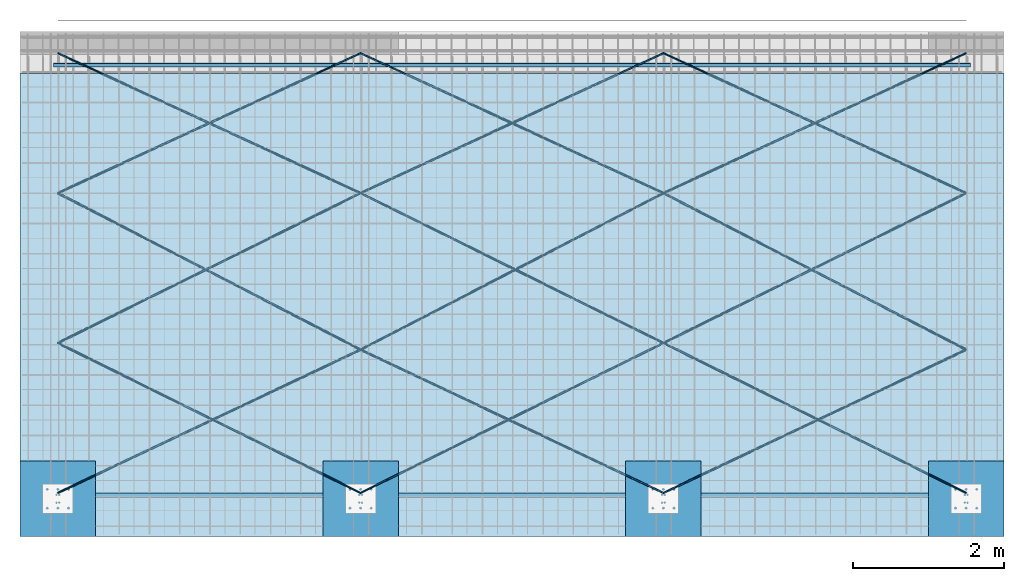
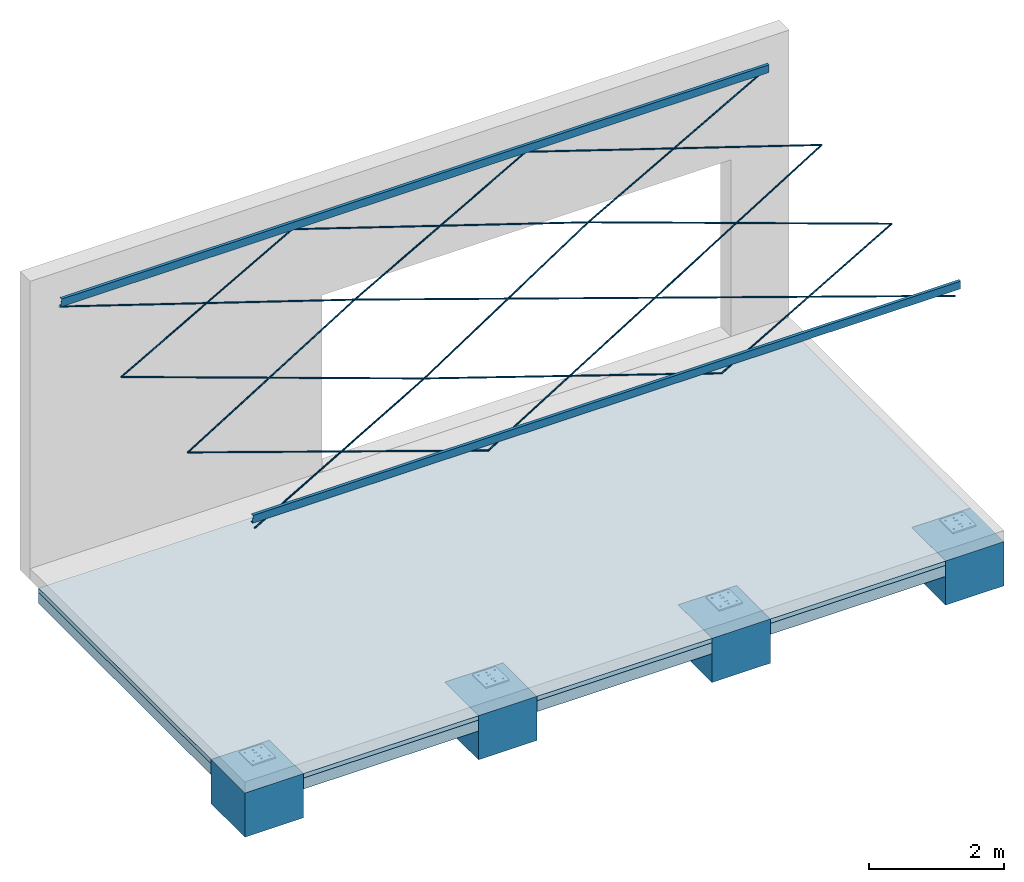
# One storey, part 1 of 8: 20 beams, 4 footings, 2 slabs.
"""IFC4X3_ADD2 building model written with IfcOpenShell, lengths in millimetres."""

import ifcopenshell
import ifcopenshell.guid

model = None  # the IFC model being written
_history = None  # IfcOwnerHistory: only IFC2X3 demands one
_inside = {}  # id of a spatial element -> (the spatial element, [elements in it])
_under = {}  # id of a project, library or spatial element -> (it, [spatial elements below it])
_declared = {}  # id of a project -> (the project, [libraries it declares])
_typed = {}  # id of a type object -> (the type object, [elements of that type])
_made_of = {}  # id of a material, layer set ... -> (it, [elements and type objects made of it])


def new_model(schema):
    """Start an empty IFC model of exactly this schema.

    Asked for "IFC4X3", IfcOpenShell would pick the latest addendum, in which some entities
    have other attributes; the version numbers below select the first issue.
    IFC2X3 requires an IfcOwnerHistory on every rooted entity: one is made here for all.
    """
    global model, _history
    if schema == "IFC4X3":
        model = ifcopenshell.file(schema_version=(4, 3, 0, 0))
    else:
        model = ifcopenshell.file(schema=schema)
    _inside.clear()
    _under.clear()
    _declared.clear()
    _typed.clear()
    _made_of.clear()
    _history = None
    if model.schema == "IFC2X3":
        org = make("IfcOrganization", Name="unknown")
        user = make(
            "IfcPersonAndOrganization",
            ThePerson=make("IfcPerson", FamilyName="unknown"),
            TheOrganization=org,
        )
        app = make(
            "IfcApplication",
            ApplicationDeveloper=org,
            Version="unknown",
            ApplicationFullName="unknown",
            ApplicationIdentifier="unknown",
        )
        _history = make(
            "IfcOwnerHistory",
            OwningUser=user,
            OwningApplication=app,
            ChangeAction="ADDED",
            CreationDate=0,
        )
    return model


def make(cls, **values):
    """One entity of the class cls with the attributes given. An attribute that is None is left unset."""
    return model.create_entity(
        cls, **{name: value for name, value in values.items() if value is not None}
    )


def entity(cls, *values):
    """Any entity or typed value of the class cls, its attributes in the order of the schema. None: left unset."""
    e = model.create_entity(cls)
    for i, value in enumerate(values):
        if value is not None:
            e[i] = value
    return e


def rooted(cls, **values):
    """An entity with a GlobalId (a new one), such as an element, a storey or a relation."""
    return make(cls, GlobalId=ifcopenshell.guid.new(), OwnerHistory=_history, **values)


def si_unit(unit_type, name, prefix=None):
    """IfcSIUnit, for example si_unit("LENGTHUNIT", "METRE", prefix="MILLI")."""
    return make("IfcSIUnit", UnitType=unit_type, Prefix=prefix, Name=name)


def converted_unit(unit_type, name, factor, base, dimensions=None, offset=None):
    """IfcConversionBasedUnit, such as the inch: factor (a typed value) times the base unit."""
    return make(
        "IfcConversionBasedUnit"
        if offset is None
        else "IfcConversionBasedUnitWithOffset",
        ConversionOffset=offset,
        Dimensions=None
        if dimensions is None
        else entity("IfcDimensionalExponents", *dimensions),
        UnitType=unit_type,
        Name=name,
        ConversionFactor=make(
            "IfcMeasureWithUnit", ValueComponent=factor, UnitComponent=base
        ),
    )


def derived_unit(unit_type, elements):
    """IfcDerivedUnit: a product of units, each with its exponent."""
    return make(
        "IfcDerivedUnit",
        Elements=[
            make("IfcDerivedUnitElement", Unit=unit, Exponent=power)
            for unit, power in elements
        ],
        UnitType=unit_type,
    )


def assignment(units):
    """IfcUnitAssignment: the units of a project."""
    return None if units is None else make("IfcUnitAssignment", Units=units)


def point(xyz):
    """IfcCartesianPoint."""
    return None if xyz is None else make("IfcCartesianPoint", Coordinates=xyz)


def direction(xyz):
    """IfcDirection."""
    return None if xyz is None else make("IfcDirection", DirectionRatios=xyz)


def frame(location, z_axis=None, x_axis=None):
    """IfcAxis2Placement3D, a coordinate frame: its origin and axes. An axis left out is left unset."""
    return make(
        "IfcAxis2Placement3D",
        Location=point(location),
        Axis=direction(z_axis),
        RefDirection=direction(x_axis),
    )


def frame_2d(location, x_axis=None):
    """IfcAxis2Placement2D, a coordinate frame in the plane: its origin and x axis."""
    return make(
        "IfcAxis2Placement2D", Location=point(location), RefDirection=direction(x_axis)
    )


def origin():
    """The frame at (0, 0, 0) with its axes left unset."""
    return frame((0.0, 0.0, 0.0))


def origin_2d_with_axis():
    """The frame at (0, 0) in the plane with the x axis (1, 0) written out."""
    return frame_2d((0.0, 0.0), x_axis=(1.0, 0.0))


def place(relative_to, where):
    """IfcLocalPlacement: puts the frame where relative to a parent placement (None: the world)."""
    return make(
        "IfcLocalPlacement", PlacementRelTo=relative_to, RelativePlacement=where
    )


def context(
    kind, dimensions, precision=None, world=None, true_north=None, identifier=None
):
    """IfcGeometricRepresentationContext, for example the 3D "Model" context."""
    return make(
        "IfcGeometricRepresentationContext",
        ContextIdentifier=identifier,
        ContextType=kind,
        CoordinateSpaceDimension=dimensions,
        Precision=precision,
        WorldCoordinateSystem=world,
        TrueNorth=true_north,
    )


def subcontext(parent, identifier, kind, view, scale=None):
    """IfcGeometricRepresentationSubContext, for example "Body" below "Model"."""
    return make(
        "IfcGeometricRepresentationSubContext",
        ContextIdentifier=identifier,
        ContextType=kind,
        ParentContext=parent,
        TargetScale=scale,
        TargetView=view,
    )


def project(units=None, contexts=None):
    """IfcProject with its units and contexts."""
    return rooted(
        "IfcProject",
        Name="project",
        RepresentationContexts=contexts,
        UnitsInContext=assignment(units),
    )


def spatial(cls, under=None, at=None, **own):
    """A site, building, storey or space (cls), placed at a placement, below another one or the project."""
    s = rooted(cls, ObjectPlacement=at, **own)
    if under is not None:
        _under.setdefault(under.id(), (under, []))[1].append(s)
    return s


def polyline(points):
    """IfcPolyline through the points."""
    return make("IfcPolyline", Points=[point(p) for p in points])


def profile(cls, at=None, kind="AREA", **sizes):
    """A parametric profile (cls). Its sizes go by their IFC names, for example OverallWidth=200.0."""
    return make(cls, ProfileType=kind, Position=at, **sizes)


def rectangle(**sizes):
    """IfcRectangleProfileDef."""
    return profile("IfcRectangleProfileDef", **sizes)


def circle(**sizes):
    """IfcCircleProfileDef."""
    return profile("IfcCircleProfileDef", **sizes)


def outline(outer, holes=None, kind="AREA"):
    """IfcArbitraryClosedProfileDef: a profile drawn as a closed curve; with holes, ...WithVoids."""
    if holes is None:
        return make("IfcArbitraryClosedProfileDef", ProfileType=kind, OuterCurve=outer)
    return make(
        "IfcArbitraryProfileDefWithVoids",
        ProfileType=kind,
        OuterCurve=outer,
        InnerCurves=holes,
    )


def extrude(swept, where, along, depth):
    """IfcExtrudedAreaSolid: the profile swept, set in the frame where, extruded along a direction by depth."""
    return make(
        "IfcExtrudedAreaSolid",
        SweptArea=swept,
        Position=where,
        ExtrudedDirection=direction(along),
        Depth=depth,
    )


def shape(context_of_items, identifier, shape_type, items):
    """IfcShapeRepresentation: the items that make up one representation, for example the "Body"."""
    return make(
        "IfcShapeRepresentation",
        ContextOfItems=context_of_items,
        RepresentationIdentifier=identifier,
        RepresentationType=shape_type,
        Items=items,
    )


def source(mapping_origin, context_of_items, identifier, shape_type, items):
    """IfcRepresentationMap: a shape defined once, which mapped items show again and again."""
    return make(
        "IfcRepresentationMap",
        MappingOrigin=mapping_origin,
        MappedRepresentation=shape(context_of_items, identifier, shape_type, items),
    )


def transform(
    local_origin,
    x_axis=None,
    y_axis=None,
    z_axis=None,
    scale=None,
    scale2=None,
    scale3=None,
    uniform=True,
):
    """IfcCartesianTransformationOperator3D, or its non-uniform kind. x_axis, y_axis, z_axis: its Axis1, 2, 3."""
    if uniform:
        return make(
            "IfcCartesianTransformationOperator3D",
            Axis1=direction(x_axis),
            Axis2=direction(y_axis),
            LocalOrigin=point(local_origin),
            Scale=scale,
            Axis3=direction(z_axis),
        )
    return make(
        "IfcCartesianTransformationOperator3DnonUniform",
        Axis1=direction(x_axis),
        Axis2=direction(y_axis),
        LocalOrigin=point(local_origin),
        Scale=scale,
        Axis3=direction(z_axis),
        Scale2=scale2,
        Scale3=scale3,
    )


def mapped(mapping_source, mapping_target):
    """IfcMappedItem: shows the shape of a source again, moved by a transform."""
    return make(
        "IfcMappedItem", MappingSource=mapping_source, MappingTarget=mapping_target
    )


def material(Name=None, Category=None):
    """IfcMaterial."""
    return make("IfcMaterial", Name=Name, Category=Category)


def layer(
    of_material, thickness, ventilated=None, Name=None, Category=None, Priority=None
):
    """IfcMaterialLayer: one layer of a wall or slab, of a material (None: an air gap)."""
    return make(
        "IfcMaterialLayer",
        Material=of_material,
        LayerThickness=thickness,
        IsVentilated=ventilated,
        Name=Name,
        Category=Category,
        Priority=Priority,
    )


def layer_set(layers, Name=None):
    """IfcMaterialLayerSet."""
    return make("IfcMaterialLayerSet", MaterialLayers=layers, LayerSetName=Name)


def layer_usage(for_layer_set, set_direction, sense, offset, extent=None):
    """IfcMaterialLayerSetUsage: how a layer set lies in its element."""
    return make(
        "IfcMaterialLayerSetUsage",
        ForLayerSet=for_layer_set,
        LayerSetDirection=set_direction,
        DirectionSense=sense,
        OffsetFromReferenceLine=offset,
        ReferenceExtent=extent,
    )


def material_profile(
    of_material, cross_section, Name=None, Category=None, Priority=None
):
    """IfcMaterialProfile: a cross section and its material."""
    return make(
        "IfcMaterialProfile",
        Name=Name,
        Material=of_material,
        Profile=cross_section,
        Priority=Priority,
        Category=Category,
    )


def profile_set(profiles, Name=None, composite=None):
    """IfcMaterialProfileSet."""
    return make(
        "IfcMaterialProfileSet",
        Name=Name,
        MaterialProfiles=profiles,
        CompositeProfile=composite,
    )


def made_of(thing, what):
    """Note that an element or type object is made of a material, layer set ...; save() writes the relation."""
    if what is not None:
        _made_of.setdefault(what.id(), (what, []))[1].append(thing)
    return thing


def type_object(cls, material=None, **own):
    """A type object (cls), such as IfcWallType, which elements share."""
    return made_of(rooted(cls, **own), material)


def type_shapes(of_type, sources):
    """Give a type object the sources (RepresentationMaps) that its elements show as mapped items."""
    of_type.RepresentationMaps = sources


def element(
    cls,
    number,
    at=None,
    inside=None,
    cuts=None,
    type_object=None,
    material=None,
    context=None,
    identifier="Body",
    shape_type=None,
    held_by="IfcProductDefinitionShape",
    body=None,
    shapes=None,
    **own,
):
    """One element of the class cls, such as IfcWall. Its Tag is "e" and its number.

    at: its placement. inside: the storey or other place that contains it. cuts: it is an
    opening in that element (IfcRelVoidsElement). A single representation is given by context,
    identifier, shape_type and body (its items); several are given by shapes. held_by: the class
    of the entity that holds the representations. save() writes the other relations.
    """
    e = rooted(cls, Tag="e%d" % number, ObjectPlacement=at, **own)
    if body is not None:
        shapes = [shape(context, identifier, shape_type, body)]
    if shapes is not None:
        e.Representation = make(held_by, Representations=shapes)
    if inside is not None:
        _inside.setdefault(inside.id(), (inside, []))[1].append(e)
    if cuts is not None:
        rooted(
            "IfcRelVoidsElement", RelatingBuildingElement=cuts, RelatedOpeningElement=e
        )
    if type_object is not None:
        _typed.setdefault(type_object.id(), (type_object, []))[1].append(e)
    return made_of(e, material)


def aggregate(whole, parts):
    """IfcRelAggregates: a whole, such as a stair, and the parts it consists of."""
    return rooted("IfcRelAggregates", RelatingObject=whole, RelatedObjects=parts)


def save(model, path):
    """Write the relations noted so far, then the file.

    IfcRelAggregates (storeys below a building ...), IfcRelContainedInSpatialStructure (elements
    in a storey), IfcRelDefinesByType, IfcRelAssociatesMaterial and IfcRelDeclares: one each for
    every whole, place, type object, material and project.
    """
    for whole, parts in _under.values():
        aggregate(whole, parts)
    for where, things in _inside.values():
        rooted(
            "IfcRelContainedInSpatialStructure",
            RelatedElements=things,
            RelatingStructure=where,
        )
    for kind, things in _typed.values():
        rooted("IfcRelDefinesByType", RelatedObjects=things, RelatingType=kind)
    for what, things in _made_of.values():
        rooted("IfcRelAssociatesMaterial", RelatedObjects=things, RelatingMaterial=what)
    for by, libraries in _declared.values():
        rooted("IfcRelDeclares", RelatingContext=by, RelatedDefinitions=libraries)
    model.write(path)


model = new_model("IFC4X3_ADD2")

# Units and contexts
model_context = context("Model", 3, precision=0.01, world=origin(), true_north=direction((6.123233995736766e-17, 1.0)))
plan_context = context("Plan", 3, precision=0.01, world=origin(), true_north=direction((6.123233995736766e-17, 1.0)))
body_context = subcontext(model_context, "Body", "Model", "MODEL_VIEW")
ifc_project = project(units=[si_unit("LENGTHUNIT", "METRE", prefix="MILLI"), converted_unit("PLANEANGLEUNIT", "DEGREE", entity("IfcPlaneAngleMeasure", 0.017453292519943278), si_unit("PLANEANGLEUNIT", "RADIAN"), dimensions=[0, 0, 0, 0, 0, 0, 0]), si_unit("AREAUNIT", "SQUARE_METRE"), si_unit("VOLUMEUNIT", "CUBIC_METRE"), derived_unit("THERMALTRANSMITTANCEUNIT", [(si_unit("MASSUNIT", "GRAM", prefix="KILO"), 1), (si_unit("THERMODYNAMICTEMPERATUREUNIT", "KELVIN"), -1), (si_unit("TIMEUNIT", "SECOND"), -3)]), derived_unit("USERDEFINED", [(si_unit("MASSUNIT", "GRAM", prefix="KILO"), 1), (si_unit("THERMODYNAMICTEMPERATUREUNIT", "KELVIN"), -1), (si_unit("TIMEUNIT", "SECOND"), -2)]), derived_unit("THERMALRESISTANCEUNIT", [(si_unit("MASSUNIT", "GRAM", prefix="KILO"), -1), (si_unit("TIMEUNIT", "SECOND"), 3), (si_unit("THERMODYNAMICTEMPERATUREUNIT", "KELVIN"), 1)]), si_unit("MASSUNIT", "GRAM", prefix="KILO"), derived_unit("MOMENTOFINERTIAUNIT", [(si_unit("LENGTHUNIT", "METRE"), 4)]), derived_unit("LINEARFORCEUNIT", [(si_unit("MASSUNIT", "GRAM", prefix="KILO"), 1), (si_unit("TIMEUNIT", "SECOND"), -2)]), derived_unit("WARPINGCONSTANTUNIT", [(si_unit("LENGTHUNIT", "METRE"), 6)]), si_unit("PRESSUREUNIT", "PASCAL"), derived_unit("MASSDENSITYUNIT", [(si_unit("MASSUNIT", "GRAM", prefix="KILO"), 1), (si_unit("LENGTHUNIT", "METRE"), -3)]), derived_unit("MODULUSOFELASTICITYUNIT", [(si_unit("MASSUNIT", "GRAM", prefix="KILO"), 1), (si_unit("TIMEUNIT", "SECOND"), -2), (si_unit("LENGTHUNIT", "METRE"), -1)]), derived_unit("THERMALEXPANSIONCOEFFICIENTUNIT", [(si_unit("THERMODYNAMICTEMPERATUREUNIT", "KELVIN"), -1)]), derived_unit("VAPORPERMEABILITYUNIT", [(si_unit("LENGTHUNIT", "METRE"), -1), (si_unit("TIMEUNIT", "SECOND"), 1)]), derived_unit("USERDEFINED", [(si_unit("MASSUNIT", "GRAM", prefix="KILO"), 1), (si_unit("TIMEUNIT", "SECOND"), -3), (si_unit("LENGTHUNIT", "METRE"), 3), (si_unit("ELECTRICCURRENTUNIT", "AMPERE"), -2)]), derived_unit("SPECIFICHEATCAPACITYUNIT", [(si_unit("THERMODYNAMICTEMPERATUREUNIT", "KELVIN"), -1), (si_unit("TIMEUNIT", "SECOND"), -2), (si_unit("LENGTHUNIT", "METRE"), 2)]), derived_unit("THERMALCONDUCTANCEUNIT", [(si_unit("MASSUNIT", "GRAM", prefix="KILO"), 1), (si_unit("THERMODYNAMICTEMPERATUREUNIT", "KELVIN"), -1), (si_unit("TIMEUNIT", "SECOND"), -3), (si_unit("LENGTHUNIT", "METRE"), 1)])], contexts=[model_context, plan_context])

# Site, building, storey
site_placement = place(None, origin())
site = spatial("IfcSite", under=ifc_project, at=site_placement, Name="Default", CompositionType="ELEMENT")
building_placement = place(site_placement, origin())
building = spatial("IfcBuilding", under=site, at=building_placement, Name="Complex structure", CompositionType="ELEMENT")
storey_placement = place(building_placement, frame((0.0, 0.0, -400.0)))
storey = spatial("IfcBuildingStorey", under=building, at=storey_placement, Name="Level -02", CompositionType="ELEMENT", Elevation=-400.0)

# Footings
ifc_material_1 = material(Name="Concrete - Cast-in-Place Concrete", Category="Concrete")
footing_type = type_object("IfcFootingType", Name="Footing-Rectangular:1000 x 1000 x 800mm", PredefinedType="NOTDEFINED", material=ifc_material_1)
shared_shape_1 = source(origin(), body_context, "Body", "SweptSolid", [
    extrude(rectangle(XDim=999.9999999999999, YDim=999.9999999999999, at=origin_2d_with_axis()), frame((0.0, 0.0, -800.0), z_axis=(0.0, 0.0, 1.0), x_axis=(-1.0, 0.0, 0.0)), (0.0, 0.0, 1.0), 800.0),
])
type_shapes(footing_type, [shared_shape_1])
for number, where, name in (
    (1, (-13145.221550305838, -1282.8667039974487, 0.0), "Footing-Rectangular:1000 x 1000 x 800mm"),
    (2, (-9145.221550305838, -1282.8667039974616, 0.0), "Footing-Rectangular:1000 x 1000 x 800mm"),
    (3, (-5145.221550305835, -1282.8667039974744, 0.0), "Footing-Rectangular:1000 x 1000 x 800mm"),
    (4, (-1145.2215503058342, -1282.8667039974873, 0.0), "Footing-Rectangular:1000 x 1000 x 800mm"),
):
    element("IfcFooting", number, at=place(storey_placement, frame(where)), inside=storey, type_object=footing_type, material=ifc_material_1, Name=name, ObjectType="Footing-Rectangular:1000 x 1000 x 800mm", PredefinedType="NOTDEFINED", context=body_context, shape_type="MappedRepresentation", body=[
        mapped(shared_shape_1, transform((0.0, 0.0, 0.0), scale=1.0)),
    ])

# Beams
ifc_material_2 = material(Name="Metal - Steel 50-355", Category="Metal")
ifc_material_profile_1 = material_profile(ifc_material_2, circle(Radius=10.0, at=frame_2d((-6.171566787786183e-16, -4.5021244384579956e-14), x_axis=(1.0, 0.0))), Name="RB 20")
ifc_profile_set_1 = profile_set([ifc_material_profile_1], Name="RB 20")
beam_type_1 = type_object("IfcBeamType", Name="Round Bars:RB 20", PredefinedType="BEAM", material=ifc_profile_set_1)
shared_shape_2 = source(origin(), body_context, "Body", "SweptSolid", [
    extrude(circle(Radius=10.0, at=frame_2d((-1.0082187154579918e-15, -4.5021244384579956e-14), x_axis=(1.0, 0.0))), frame((-2253.35, 0.0, 0.0), z_axis=(1.0, 0.0, 0.0), x_axis=(0.0, -1.0, 0.0)), (0.0, 0.0, 1.0), 4506.7),
])
type_shapes(beam_type_1, [shared_shape_2])
for number, where, z_axis, x_axis, name in (
    (5, (-11145.22155030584, 1721.0707065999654, 4519.877509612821), (0.0, -0.0830454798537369, 0.9965457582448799), (-0.8875604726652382, 0.45909988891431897, 0.038258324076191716), "Round Bars:RB 20"),
    (6, (-3145.221550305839, 1721.0707065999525, 4519.877509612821), (0.0, -0.0830454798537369, 0.9965457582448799), (-0.8875604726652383, 0.459099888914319, 0.03825832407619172), "Round Bars:RB 20"),
):
    element("IfcBeam", number, at=place(storey_placement, frame(where, z_axis=z_axis, x_axis=x_axis)), inside=storey, type_object=beam_type_1, Name=name, ObjectType="Round Bars:RB 20", PredefinedType="BEAM", context=body_context, shape_type="MappedRepresentation", body=[
        mapped(shared_shape_2, transform((0.0, 0.0, 0.0), scale=1.0)),
    ])
beam_type_2 = type_object("IfcBeamType", Name="Round Bars:RB 20", PredefinedType="BEAM", material=ifc_profile_set_1)
shared_shape_3 = source(origin(), body_context, "Body", "SweptSolid", [
    extrude(circle(Radius=10.0, at=frame_2d((9.779001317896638e-16, -4.5021244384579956e-14), x_axis=(1.0, 0.0))), frame((-2204.5895113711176, 0.0, 0.0), z_axis=(1.0, 0.0, 0.0), x_axis=(0.0, -1.0, 0.0)), (0.0, 0.0, 1.0), 4409.089511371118),
])
type_shapes(beam_type_2, [shared_shape_3])
beam_1_placement = place(storey_placement, frame((-11145.22155030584, 3679.6913962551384, 4683.095900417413), z_axis=(0.0, -0.08304547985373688, 0.9965457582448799), x_axis=(0.9072286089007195, 0.41918492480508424, 0.034932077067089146)))
element("IfcBeam", 7, at=beam_1_placement, inside=storey, type_object=beam_type_2, Name="Round Bars:RB 20", ObjectType="Round Bars:RB 20", PredefinedType="BEAM", context=body_context, shape_type="MappedRepresentation", body=[
    mapped(shared_shape_3, transform((0.0, 0.0, 0.0), scale=1.0)),
])
beam_type_3 = type_object("IfcBeamType", Name="Round Bars:RB 20", PredefinedType="BEAM", material=ifc_profile_set_1)
shared_shape_4 = source(origin(), body_context, "Body", "SweptSolid", [
    extrude(circle(Radius=10.0, at=frame_2d((-9.858924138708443e-16, -4.5021244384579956e-14), x_axis=(1.0, 0.0))), frame((-2204.5, 0.0, 0.0), z_axis=(1.0, 0.0, 0.0), x_axis=(0.0, -1.0, 0.0)), (0.0, 0.0, 1.0), 4409.0),
])
type_shapes(beam_type_3, [shared_shape_4])
beam_2_placement = place(storey_placement, frame((-11145.22155030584, 3679.6913962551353, 4683.095900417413), z_axis=(0.0, -0.08304547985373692, 0.9965457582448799), x_axis=(0.9072286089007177, -0.41918492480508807, -0.034932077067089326)))
element("IfcBeam", 8, at=beam_2_placement, inside=storey, type_object=beam_type_3, Name="Round Bars:RB 20", ObjectType="Round Bars:RB 20", PredefinedType="BEAM", context=body_context, shape_type="MappedRepresentation", body=[
    mapped(shared_shape_4, transform((0.0, 0.0, 0.0), scale=1.0)),
])
beam_type_4 = type_object("IfcBeamType", Name="Round Bars:RB 20", PredefinedType="BEAM", material=ifc_profile_set_1)
shared_shape_5 = source(origin(), body_context, "Body", "SweptSolid", [
    extrude(circle(Radius=10.0, at=frame_2d((-9.839017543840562e-16, -4.5021244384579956e-14), x_axis=(1.0, 0.0))), frame((-2233.3, 0.0, 0.0), z_axis=(1.0, 0.0, 0.0), x_axis=(0.0, -1.0, 0.0)), (0.0, 0.0, 1.0), 4466.631016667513),
])
type_shapes(beam_type_4, [shared_shape_5])
beam_3_placement = place(storey_placement, frame((-11145.22155030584, 1765.2276626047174, 4523.557255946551), z_axis=(0.0, -0.0830454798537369, 0.99654575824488), x_axis=(-0.8955354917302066, -0.44345298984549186, -0.036954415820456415)))
element("IfcBeam", 9, at=beam_3_placement, inside=storey, type_object=beam_type_4, Name="Round Bars:RB 20", ObjectType="Round Bars:RB 20", PredefinedType="BEAM", context=body_context, shape_type="MappedRepresentation", body=[
    mapped(shared_shape_5, transform((0.0, 0.0, 0.0), scale=1.0)),
])
beam_type_5 = type_object("IfcBeamType", Name="Round Bars:RB 20", PredefinedType="BEAM", material=ifc_profile_set_1)
shared_shape_6 = source(origin(), body_context, "Body", "SweptSolid", [
    extrude(circle(Radius=10.0, at=frame_2d((-9.839017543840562e-16, -4.5021244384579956e-14), x_axis=(1.0, 0.0))), frame((-2233.3, 0.0, 0.0), z_axis=(1.0, 0.0, 0.0), x_axis=(0.0, -1.0, 0.0)), (0.0, 0.0, 1.0), 4466.6),
])
type_shapes(beam_type_5, [shared_shape_6])
beam_4_placement = place(storey_placement, frame((-11145.22155030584, -215.50004250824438, 4358.49661385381), z_axis=(0.0, -0.0830454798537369, 0.9965457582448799), x_axis=(0.8955354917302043, -0.4434529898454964, -0.03695441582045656)))
element("IfcBeam", 10, at=beam_4_placement, inside=storey, type_object=beam_type_5, Name="Round Bars:RB 20", ObjectType="Round Bars:RB 20", PredefinedType="BEAM", context=body_context, shape_type="MappedRepresentation", body=[
    mapped(shared_shape_6, transform((0.0, 0.0, 0.0), scale=1.0)),
])
beam_type_6 = type_object("IfcBeamType", Name="Round Bars:RB 20", PredefinedType="BEAM", material=ifc_profile_set_1)
shared_shape_7 = source(origin(), body_context, "Body", "SweptSolid", [
    extrude(circle(Radius=10.0, at=frame_2d((5.75574207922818e-17, -4.5021244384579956e-14), x_axis=(1.0, 0.0))), frame((-2213.9, 0.0, 0.0), z_axis=(1.0, 0.0, 0.0), x_axis=(0.0, -1.0, 0.0)), (0.0, 0.0, 1.0), 4428.8),
])
type_shapes(beam_type_6, [shared_shape_7])
beam_5_placement = place(storey_placement, frame((-11145.22155030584, -259.6569985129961, 4354.81686752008), z_axis=(0.0, -0.0830454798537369, 0.99654575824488), x_axis=(-0.9033673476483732, -0.4273862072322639, -0.03561551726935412)))
element("IfcBeam", 11, at=beam_5_placement, inside=storey, type_object=beam_type_6, Name="Round Bars:RB 20", ObjectType="Round Bars:RB 20", PredefinedType="BEAM", context=body_context, shape_type="MappedRepresentation", body=[
    mapped(shared_shape_7, transform((0.0, 0.0, 0.0), scale=1.0)),
])
beam_type_7 = type_object("IfcBeamType", Name="Round Bars:RB 20", PredefinedType="BEAM", material=ifc_profile_set_1)
shared_shape_8 = source(origin(), body_context, "Body", "SweptSolid", [
    extrude(circle(Radius=10.0, at=frame_2d((-9.858924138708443e-16, -1.6155445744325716e-14), x_axis=(1.0, 0.0))), frame((-2204.5, 0.0, 0.0), z_axis=(1.0, 0.0, 0.0), x_axis=(0.0, 1.0, 0.0)), (0.0, 0.0, 1.0), 4409.0320769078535),
])
type_shapes(beam_type_7, [shared_shape_8])
beam_6_placement = place(storey_placement, frame((-7145.221550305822, 3679.691396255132, 4683.095900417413), z_axis=(0.0, -0.08304547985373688, 0.9965457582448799), x_axis=(-0.9072286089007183, 0.41918492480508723, 0.03493207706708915)))
element("IfcBeam", 12, at=beam_6_placement, inside=storey, type_object=beam_type_7, Name="Round Bars:RB 20", ObjectType="Round Bars:RB 20", PredefinedType="BEAM", context=body_context, shape_type="MappedRepresentation", body=[
    mapped(shared_shape_8, transform((0.0, 0.0, 0.0), scale=1.0)),
])
beam_type_8 = type_object("IfcBeamType", Name="Round Bars:RB 20", PredefinedType="BEAM", material=ifc_profile_set_1)
shared_shape_9 = source(origin(), body_context, "Body", "SweptSolid", [
    extrude(circle(Radius=10.0, at=frame_2d((-9.839017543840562e-16, -1.6155445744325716e-14), x_axis=(1.0, 0.0))), frame((-2233.3, 0.0, 0.0), z_axis=(1.0, 0.0, 0.0), x_axis=(0.0, 1.0, 0.0)), (0.0, 0.0, 1.0), 4466.6),
])
type_shapes(beam_type_8, [shared_shape_9])
beam_7_placement = place(storey_placement, frame((-7145.221550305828, 1765.2276626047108, 4523.557255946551), z_axis=(0.0, -0.0830454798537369, 0.99654575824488), x_axis=(0.8955354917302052, -0.4434529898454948, -0.036954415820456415)))
element("IfcBeam", 13, at=beam_7_placement, inside=storey, type_object=beam_type_8, Name="Round Bars:RB 20", ObjectType="Round Bars:RB 20", PredefinedType="BEAM", context=body_context, shape_type="MappedRepresentation", body=[
    mapped(shared_shape_9, transform((0.0, 0.0, 0.0), scale=1.0)),
])
beam_type_9 = type_object("IfcBeamType", Name="Round Bars:RB 20", PredefinedType="BEAM", material=ifc_profile_set_1)
shared_shape_10 = source(origin(), body_context, "Body", "SweptSolid", [
    extrude(circle(Radius=10.0, at=frame_2d((-9.858924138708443e-16, -4.5021244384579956e-14), x_axis=(1.0, 0.0))), frame((-2204.5, 0.0, 0.0), z_axis=(1.0, 0.0, 0.0), x_axis=(0.0, -1.0, 0.0)), (0.0, 0.0, 1.0), 4409.098329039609),
])
type_shapes(beam_type_9, [shared_shape_10])
beam_8_placement = place(storey_placement, frame((-3145.221550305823, 3679.6913962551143, 4683.095900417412), z_axis=(0.0, -0.08304547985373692, 0.9965457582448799), x_axis=(0.9072286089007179, -0.4191849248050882, -0.03493207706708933)))
element("IfcBeam", 14, at=beam_8_placement, inside=storey, type_object=beam_type_9, Name="Round Bars:RB 20", ObjectType="Round Bars:RB 20", PredefinedType="BEAM", context=body_context, shape_type="MappedRepresentation", body=[
    mapped(shared_shape_10, transform((0.0, 0.0, 0.0), scale=1.0)),
])
beam_type_10 = type_object("IfcBeamType", Name="Round Bars:RB 20", PredefinedType="BEAM", material=ifc_profile_set_1)
shared_shape_11 = source(origin(), body_context, "Body", "SweptSolid", [
    extrude(circle(Radius=10.0, at=frame_2d((-1.0082187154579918e-15, -1.6155445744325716e-14), x_axis=(1.0, 0.0))), frame((-2253.35, 0.0, 0.0), z_axis=(1.0, 0.0, 0.0), x_axis=(0.0, 1.0, 0.0)), (0.0, 0.0, 1.0), 4506.7),
])
type_shapes(beam_type_10, [shared_shape_11])
beam_9_placement = place(storey_placement, frame((-7145.221550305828, 1721.070706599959, 4519.877509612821), z_axis=(0.0, -0.0830454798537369, 0.99654575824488), x_axis=(0.8875604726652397, 0.4590998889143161, 0.038258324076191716)))
element("IfcBeam", 15, at=beam_9_placement, inside=storey, type_object=beam_type_10, Name="Round Bars:RB 20", ObjectType="Round Bars:RB 20", PredefinedType="BEAM", context=body_context, shape_type="MappedRepresentation", body=[
    mapped(shared_shape_11, transform((0.0, 0.0, 0.0), scale=1.0)),
])
beam_type_11 = type_object("IfcBeamType", Name="Round Bars:RB 20", PredefinedType="BEAM", material=ifc_profile_set_1)
shared_shape_12 = source(origin(), body_context, "Body", "SweptSolid", [
    extrude(circle(Radius=10.0, at=frame_2d((-9.858924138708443e-16, -1.6155445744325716e-14), x_axis=(1.0, 0.0))), frame((-2204.5, 0.0, 0.0), z_axis=(1.0, 0.0, 0.0), x_axis=(0.0, 1.0, 0.0)), (0.0, 0.0, 1.0), 4409.0),
])
type_shapes(beam_type_11, [shared_shape_12])
beam_10_placement = place(storey_placement, frame((-7145.22155030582, 3679.6913962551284, 4683.095900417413), z_axis=(0.0, -0.08304547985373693, 0.9965457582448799), x_axis=(-0.9072286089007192, -0.41918492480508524, -0.03493207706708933)))
element("IfcBeam", 16, at=beam_10_placement, inside=storey, type_object=beam_type_11, Name="Round Bars:RB 20", ObjectType="Round Bars:RB 20", PredefinedType="BEAM", context=body_context, shape_type="MappedRepresentation", body=[
    mapped(shared_shape_12, transform((0.0, 0.0, 0.0), scale=1.0)),
])
beam_type_12 = type_object("IfcBeamType", Name="Round Bars:RB 20", PredefinedType="BEAM", material=ifc_profile_set_1)
shared_shape_13 = source(origin(), body_context, "Body", "SweptSolid", [
    extrude(circle(Radius=10.0, at=frame_2d((-9.858924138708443e-16, -4.5021244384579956e-14), x_axis=(1.0, 0.0))), frame((-2204.5, 0.0, 0.0), z_axis=(1.0, 0.0, 0.0), x_axis=(0.0, -1.0, 0.0)), (0.0, 0.0, 1.0), 4409.0),
])
type_shapes(beam_type_12, [shared_shape_13])
beam_11_placement = place(storey_placement, frame((-3145.221550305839, 3679.6913962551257, 4683.095900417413), z_axis=(0.0, -0.08304547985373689, 0.9965457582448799), x_axis=(0.9072286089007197, 0.4191849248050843, 0.03493207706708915)))
element("IfcBeam", 17, at=beam_11_placement, inside=storey, type_object=beam_type_12, Name="Round Bars:RB 20", ObjectType="Round Bars:RB 20", PredefinedType="BEAM", context=body_context, shape_type="MappedRepresentation", body=[
    mapped(shared_shape_13, transform((0.0, 0.0, 0.0), scale=1.0)),
])
beam_type_13 = type_object("IfcBeamType", Name="Round Bars:RB 20", PredefinedType="BEAM", material=ifc_profile_set_1)
shared_shape_14 = source(origin(), body_context, "Body", "SweptSolid", [
    extrude(circle(Radius=10.0, at=frame_2d((-9.839017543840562e-16, -4.5021244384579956e-14), x_axis=(1.0, 0.0))), frame((-2233.3, 0.0, 0.0), z_axis=(1.0, 0.0, 0.0), x_axis=(0.0, -1.0, 0.0)), (0.0, 0.0, 1.0), 4466.6),
])
type_shapes(beam_type_13, [shared_shape_14])
beam_12_placement = place(storey_placement, frame((-3145.2215503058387, 1765.2276626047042, 4523.557255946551), z_axis=(0.0, -0.0830454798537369, 0.9965457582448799), x_axis=(-0.8955354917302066, -0.44345298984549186, -0.036954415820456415)))
element("IfcBeam", 18, at=beam_12_placement, inside=storey, type_object=beam_type_13, Name="Round Bars:RB 20", ObjectType="Round Bars:RB 20", PredefinedType="BEAM", context=body_context, shape_type="MappedRepresentation", body=[
    mapped(shared_shape_14, transform((0.0, 0.0, 0.0), scale=1.0)),
])
beam_type_14 = type_object("IfcBeamType", Name="Round Bars:RB 20", PredefinedType="BEAM", material=ifc_profile_set_1)
shared_shape_15 = source(origin(), body_context, "Body", "SweptSolid", [
    extrude(circle(Radius=10.0, at=frame_2d((-9.839017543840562e-16, -1.6155445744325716e-14), x_axis=(1.0, 0.0))), frame((-2233.3, 0.0, 0.0), z_axis=(1.0, 0.0, 0.0), x_axis=(0.0, 1.0, 0.0)), (0.0, 0.0, 1.0), 4466.6),
])
type_shapes(beam_type_14, [shared_shape_15])
beam_13_placement = place(storey_placement, frame((-7145.221550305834, -215.50004250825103, 4358.49661385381), z_axis=(0.0, -0.08304547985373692, 0.9965457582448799), x_axis=(-0.8955354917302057, -0.4434529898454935, -0.03695441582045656)))
element("IfcBeam", 19, at=beam_13_placement, inside=storey, type_object=beam_type_14, Name="Round Bars:RB 20", ObjectType="Round Bars:RB 20", PredefinedType="BEAM", context=body_context, shape_type="MappedRepresentation", body=[
    mapped(shared_shape_15, transform((0.0, 0.0, 0.0), scale=1.0)),
])
beam_type_15 = type_object("IfcBeamType", Name="Round Bars:RB 20", PredefinedType="BEAM", material=ifc_profile_set_1)
shared_shape_16 = source(origin(), body_context, "Body", "SweptSolid", [
    extrude(circle(Radius=10.0, at=frame_2d((5.755742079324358e-17, -1.6155445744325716e-14), x_axis=(1.0, 0.0))), frame((-2213.9, 0.0, 0.0), z_axis=(1.0, 0.0, 0.0), x_axis=(0.0, 1.0, 0.0)), (0.0, 0.0, 1.0), 4427.8),
])
type_shapes(beam_type_15, [shared_shape_16])
beam_14_placement = place(storey_placement, frame((-7145.221550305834, -259.65699851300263, 4354.81686752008), z_axis=(0.0, -0.0830454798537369, 0.9965457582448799), x_axis=(0.9033673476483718, -0.42738620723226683, -0.03561551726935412)))
element("IfcBeam", 20, at=beam_14_placement, inside=storey, type_object=beam_type_15, Name="Round Bars:RB 20", ObjectType="Round Bars:RB 20", PredefinedType="BEAM", context=body_context, shape_type="MappedRepresentation", body=[
    mapped(shared_shape_16, transform((0.0, 0.0, 0.0), scale=1.0)),
])
beam_type_16 = type_object("IfcBeamType", Name="Round Bars:RB 20", PredefinedType="BEAM", material=ifc_profile_set_1)
shared_shape_17 = source(origin(), body_context, "Body", "SweptSolid", [
    extrude(circle(Radius=10.0, at=frame_2d((-9.839017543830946e-16, -4.5021244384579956e-14), x_axis=(1.0, 0.0))), frame((-2233.3, 0.0, 0.0), z_axis=(1.0, 0.0, 0.0), x_axis=(0.0, -1.0, 0.0)), (0.0, 0.0, 1.0), 4467.7),
])
type_shapes(beam_type_16, [shared_shape_17])
beam_15_placement = place(storey_placement, frame((-3145.221550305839, -215.5000425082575, 4358.49661385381), z_axis=(0.0, -0.08304547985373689, 0.9965457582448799), x_axis=(0.8955354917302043, -0.4434529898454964, -0.03695441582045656)))
element("IfcBeam", 21, at=beam_15_placement, inside=storey, type_object=beam_type_16, Name="Round Bars:RB 20", ObjectType="Round Bars:RB 20", PredefinedType="BEAM", context=body_context, shape_type="MappedRepresentation", body=[
    mapped(shared_shape_17, transform((0.0, 0.0, 0.0), scale=1.0)),
])
beam_type_17 = type_object("IfcBeamType", Name="Round Bars:RB 20", PredefinedType="BEAM", material=ifc_profile_set_1)
shared_shape_18 = source(origin(), body_context, "Body", "SweptSolid", [
    extrude(circle(Radius=10.0, at=frame_2d((5.755742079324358e-17, -4.5021244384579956e-14), x_axis=(1.0, 0.0))), frame((-2213.9, 0.0, 0.0), z_axis=(1.0, 0.0, 0.0), x_axis=(0.0, -1.0, 0.0)), (0.0, 0.0, 1.0), 4427.8),
])
type_shapes(beam_type_17, [shared_shape_18])
beam_16_placement = place(storey_placement, frame((-3145.221550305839, -259.6569985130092, 4354.81686752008), z_axis=(0.0, -0.0830454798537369, 0.99654575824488), x_axis=(-0.9033673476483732, -0.4273862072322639, -0.03561551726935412)))
element("IfcBeam", 22, at=beam_16_placement, inside=storey, type_object=beam_type_17, Name="Round Bars:RB 20", ObjectType="Round Bars:RB 20", PredefinedType="BEAM", context=body_context, shape_type="MappedRepresentation", body=[
    mapped(shared_shape_18, transform((0.0, 0.0, 0.0), scale=1.0)),
])
ifc_material_3 = material(Name="Lindab_000_Galvanized")
ifc_material_profile_2 = material_profile(ifc_material_3, outline(polyline([(-75.0, -11.916666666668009), (-60.0, -11.916666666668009), (-60.0, -10.416666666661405), (-73.4999999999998, -10.416666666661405), (-73.4999999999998, 27.583333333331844), (73.50000000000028, 27.583333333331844), (73.50000000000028, -16.41666666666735), (60.0, -16.41666666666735), (60.0, -17.91666666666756), (75.0, -17.91666666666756), (75.0, 29.083333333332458), (-75.0, 29.083333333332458), (-75.0, -11.916666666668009)])), Name="Lindab C 150/1.5")
ifc_profile_set_2 = profile_set([ifc_material_profile_2], Name="Lindab C 150/1.5")
beam_type_18 = type_object("IfcBeamType", Name="Construction_Beams-&-Lintels_Lindab_C-HU:Lindab C 150/1.5", PredefinedType="JOIST", material=ifc_profile_set_2)
shared_shape_19 = source(origin(), body_context, "Body", "SweptSolid", [
    extrude(outline(polyline([(-75.0, -11.916666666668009), (-60.0, -11.916666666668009), (-60.0, -10.416666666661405), (-73.4999999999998, -10.416666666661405), (-73.4999999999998, 27.583333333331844), (73.50000000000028, 27.583333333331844), (73.50000000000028, -16.41666666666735), (60.0, -16.41666666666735), (60.0, -17.91666666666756), (75.0, -17.91666666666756), (75.0, 29.083333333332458), (-75.0, 29.083333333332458), (-75.0, -11.916666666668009)])), frame((-6060.0, 0.0, 29.083333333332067), z_axis=(1.0, 0.0, 0.0), x_axis=(0.0, -1.0, 0.0)), (0.0, 0.0, 1.0), 12120.0),
])
type_shapes(beam_type_18, [shared_shape_19])
beam_17_placement = place(storey_placement, frame((-7145.526350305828, 4426.988434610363, 4951.081227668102), z_axis=(0.0, 0.9965457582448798, 0.08304547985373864), x_axis=(1.0, 0.0, 0.0)))
element("IfcBeam", 23, at=beam_17_placement, inside=storey, type_object=beam_type_18, Name="Construction_Beams-&-Lintels_Lindab_C-HU:Lindab C 150/1.5", ObjectType="Construction_Beams-&-Lintels_Lindab_C-HU:Lindab C 150/1.5", PredefinedType="JOIST", context=body_context, shape_type="MappedRepresentation", body=[
    mapped(shared_shape_19, transform((0.0, 0.0, 0.0), scale=1.0)),
])
beam_type_19 = type_object("IfcBeamType", Name="Construction_Beams-&-Lintels_Lindab_C-HU:Lindab C 150/1.5", PredefinedType="JOIST", material=ifc_profile_set_2)
shared_shape_20 = source(origin(), body_context, "Body", "SweptSolid", [
    extrude(outline(polyline([(-75.0, -11.916666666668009), (-60.0, -11.916666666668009), (-60.0, -10.416666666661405), (-73.4999999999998, -10.416666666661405), (-73.4999999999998, 27.583333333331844), (73.50000000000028, 27.583333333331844), (73.50000000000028, -16.41666666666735), (60.0, -16.41666666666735), (60.0, -17.91666666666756), (75.0, -17.91666666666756), (75.0, 29.083333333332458), (-75.0, 29.083333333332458), (-75.0, -11.916666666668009)])), frame((-6060.0, 0.0, 29.083333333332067), z_axis=(1.0, 0.0, 0.0), x_axis=(0.0, -1.0, 0.0)), (0.0, 0.0, 1.0), 12120.0),
])
type_shapes(beam_type_19, [shared_shape_20])
beam_18_placement = place(storey_placement, frame((-7145.221550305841, -1253.3223873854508, 4477.721992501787), z_axis=(0.0, 0.9965457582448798, 0.08304547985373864), x_axis=(1.0, 0.0, 0.0)))
element("IfcBeam", 24, at=beam_18_placement, inside=storey, type_object=beam_type_19, Name="Construction_Beams-&-Lintels_Lindab_C-HU:Lindab C 150/1.5", ObjectType="Construction_Beams-&-Lintels_Lindab_C-HU:Lindab C 150/1.5", PredefinedType="JOIST", context=body_context, shape_type="MappedRepresentation", body=[
    mapped(shared_shape_20, transform((0.0, 0.0, 0.0), scale=1.0)),
])

# Slabs
ifc_layer_1 = layer(ifc_material_1, 80.0, Name="Concrete - Cast-in-Place Concrete", Category="Concrete")
ifc_layer_set_1 = layer_set([ifc_layer_1], Name="Floor:Blinding Concrete 80mm")
ifc_layer_usage_1 = layer_usage(ifc_layer_set_1, "AXIS3", "POSITIVE", 0.0)
slab_type_1 = type_object("IfcSlabType", Name="Floor:Blinding Concrete 80mm", PredefinedType="FLOOR", material=ifc_layer_set_1)
slab_1_placement = place(storey_placement, origin())
element("IfcSlab", 25, at=slab_1_placement, inside=storey, type_object=slab_type_1, material=ifc_layer_usage_1, Name="Floor:Blinding Concrete 80mm", ObjectType="Floor:Blinding Concrete 80mm", PredefinedType="FLOOR", context=body_context, shape_type="SweptSolid", body=[
    extrude(outline(polyline([(-265.0, -6500.0), (4855.0, -6500.0), (4855.0, 6500.0), (-265.0, 6500.0), (-265.0, 5500.0), (-1265.0, 5500.0), (-1265.0, 2500.0), (-265.0, 2500.0), (-265.0, 1500.0), (-1265.0, 1500.0), (-1265.0, -1500.0), (-265.0, -1500.0), (-265.0, -2500.0), (-1265.0, -2500.0), (-1265.0, -5500.0), (-265.0, -5500.0), (-265.0, -6500.0)])), frame((-7145.221550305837, -517.8667039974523, 0.0), z_axis=(0.0, 0.0, -1.0), x_axis=(0.0, 1.0, 0.0)), (0.0, 0.0, 1.0), 80.00000000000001),
])
ifc_material_4 = material(Name="Gravel", Category="Misc")
ifc_layer_2 = layer(ifc_material_4, 200.0, Name="Gravel", Category="Misc")
ifc_layer_set_2 = layer_set([ifc_layer_2], Name="Floor:Gravel 200mm")
ifc_layer_usage_2 = layer_usage(ifc_layer_set_2, "AXIS3", "POSITIVE", 0.0)
slab_type_2 = type_object("IfcSlabType", Name="Floor:Gravel 200mm", PredefinedType="FLOOR", material=ifc_layer_set_2)
slab_2_placement = place(storey_placement, origin())
element("IfcSlab", 26, at=slab_2_placement, inside=storey, type_object=slab_type_2, material=ifc_layer_usage_2, Name="Floor:Gravel 200mm", ObjectType="Floor:Gravel 200mm", PredefinedType="FLOOR", context=body_context, shape_type="SweptSolid", body=[
    extrude(outline(polyline([(-265.0, -6500.0), (4855.0, -6500.0), (4855.0, 6500.0), (-265.0, 6500.0), (-265.0, 5500.0), (-1265.0, 5500.0), (-1265.0, 2500.0), (-265.0, 2500.0), (-265.0, 1500.0), (-1265.0, 1500.0), (-1265.0, -1500.0), (-265.0, -1500.0), (-265.0, -2500.0), (-1265.0, -2500.0), (-1265.0, -5500.0), (-265.0, -5500.0), (-265.0, -6500.0)])), frame((-7145.221550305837, -517.8667039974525, -80.0), z_axis=(0.0, 0.0, -1.0), x_axis=(0.0, 1.0, 0.0)), (0.0, 0.0, 1.0), 199.99999999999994),
])

save(model, "model.ifc")
